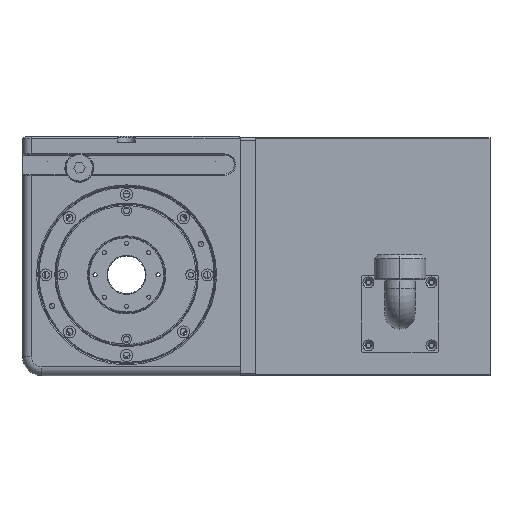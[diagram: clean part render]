
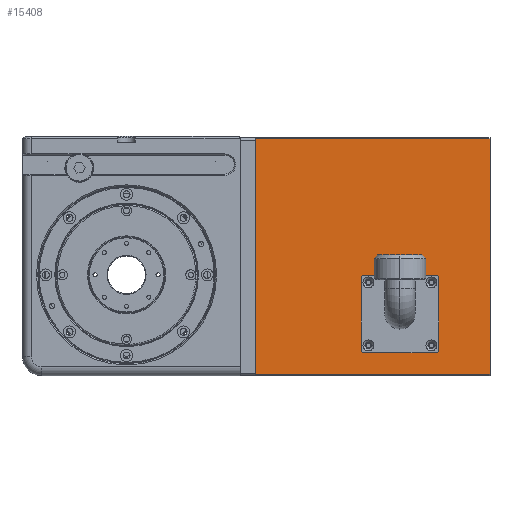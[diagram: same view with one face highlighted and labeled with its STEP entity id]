
A CAD part, front view. The second image highlights one B-rep face of the part: STEP entity #15408.
In plain terms, the highlighted planar face has unit normal (0, -1, 0).
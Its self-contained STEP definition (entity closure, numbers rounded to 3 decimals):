
#708 = EDGE_CURVE ( 'NONE', #8690, #7655, #4653, .T. ) ;
#757 = EDGE_LOOP ( 'NONE', ( #19746, #19303, #3101, #16764 ) ) ;
#802 = CARTESIAN_POINT ( 'NONE',  ( 192., 0., -81.005 ) ) ;
#845 = DIRECTION ( 'NONE',  ( -1., 0., 0. ) ) ;
#949 = VERTEX_POINT ( 'NONE', #19877 ) ;
#989 = DIRECTION ( 'NONE',  ( 0., -1., 0. ) ) ;
#1010 = CARTESIAN_POINT ( 'NONE',  ( 239.975, 0., -81.005 ) ) ;
#1048 = VERTEX_POINT ( 'NONE', #2577 ) ;
#1063 = VECTOR ( 'NONE', #20145, 1000. ) ;
#1245 = AXIS2_PLACEMENT_3D ( 'NONE', #16642, #15104, #11934 ) ;
#1352 = ORIENTED_EDGE ( 'NONE', *, *, #11723, .F. ) ;
#1594 = EDGE_CURVE ( 'NONE', #2111, #949, #5859, .T. ) ;
#1613 = AXIS2_PLACEMENT_3D ( 'NONE', #14639, #3124, #19420 ) ;
#1927 = DIRECTION ( 'NONE',  ( 0., 0., -1. ) ) ;
#1934 = AXIS2_PLACEMENT_3D ( 'NONE', #7332, #16989, #8978 ) ;
#2111 = VERTEX_POINT ( 'NONE', #8515 ) ;
#2280 = EDGE_LOOP ( 'NONE', ( #6208, #16743 ) ) ;
#2454 = DIRECTION ( 'NONE',  ( 0., 1., 0. ) ) ;
#2577 = CARTESIAN_POINT ( 'NONE',  ( 194.025, 0., -81.005 ) ) ;
#2601 = CARTESIAN_POINT ( 'NONE',  ( 192., 0., -81.005 ) ) ;
#2776 = EDGE_CURVE ( 'NONE', #1048, #18453, #18165, .T. ) ;
#2917 = FACE_BOUND ( 'NONE', #4594, .T. ) ;
#3101 = ORIENTED_EDGE ( 'NONE', *, *, #4423, .T. ) ;
#3124 = DIRECTION ( 'NONE',  ( 0., -1., 0. ) ) ;
#4154 = CARTESIAN_POINT ( 'NONE',  ( 102.5, 0., -104.005 ) ) ;
#4262 = LINE ( 'NONE', #18149, #16629 ) ;
#4335 = EDGE_CURVE ( 'NONE', #8490, #949, #12849, .T. ) ;
#4423 = EDGE_CURVE ( 'NONE', #6954, #8490, #4262, .T. ) ;
#4594 = EDGE_LOOP ( 'NONE', ( #1352, #11494 ) ) ;
#4653 = CIRCLE ( 'NONE', #7430, 2.025 ) ;
#4904 = EDGE_LOOP ( 'NONE', ( #18119, #13363 ) ) ;
#5166 = FACE_OUTER_BOUND ( 'NONE', #757, .T. ) ;
#5411 = AXIS2_PLACEMENT_3D ( 'NONE', #8538, #13470, #6885 ) ;
#5859 = LINE ( 'NONE', #7012, #1063 ) ;
#6208 = ORIENTED_EDGE ( 'NONE', *, *, #7320, .F. ) ;
#6465 = CARTESIAN_POINT ( 'NONE',  ( 217., 0., -81.005 ) ) ;
#6570 = CARTESIAN_POINT ( 'NONE',  ( 244.025, 0., -31.005 ) ) ;
#6620 = VERTEX_POINT ( 'NONE', #6570 ) ;
#6885 = DIRECTION ( 'NONE',  ( -1., 0., 0. ) ) ;
#6954 = VERTEX_POINT ( 'NONE', #16585 ) ;
#7012 = CARTESIAN_POINT ( 'NONE',  ( 288.5, 0., -105.005 ) ) ;
#7264 = CARTESIAN_POINT ( 'NONE',  ( 288.5, 0., -105.005 ) ) ;
#7320 = EDGE_CURVE ( 'NONE', #7655, #8690, #17313, .T. ) ;
#7332 = CARTESIAN_POINT ( 'NONE',  ( 242., 0., -31.005 ) ) ;
#7430 = AXIS2_PLACEMENT_3D ( 'NONE', #8629, #14968, #8402 ) ;
#7619 = DIRECTION ( 'NONE',  ( 0., 0., -1. ) ) ;
#7655 = VERTEX_POINT ( 'NONE', #20243 ) ;
#7853 = ORIENTED_EDGE ( 'NONE', *, *, #12305, .F. ) ;
#8054 = DIRECTION ( 'NONE',  ( 0., -1., 0. ) ) ;
#8402 = DIRECTION ( 'NONE',  ( -1., 0., 0. ) ) ;
#8428 = ORIENTED_EDGE ( 'NONE', *, *, #2776, .F. ) ;
#8490 = VERTEX_POINT ( 'NONE', #4154 ) ;
#8493 = DIRECTION ( 'NONE',  ( 0., -1., 0. ) ) ;
#8515 = CARTESIAN_POINT ( 'NONE',  ( 288.5, 0., 82.995 ) ) ;
#8538 = CARTESIAN_POINT ( 'NONE',  ( 242., 0., -81.005 ) ) ;
#8629 = CARTESIAN_POINT ( 'NONE',  ( 192., 0., -31.005 ) ) ;
#8690 = VERTEX_POINT ( 'NONE', #20867 ) ;
#8752 = AXIS2_PLACEMENT_3D ( 'NONE', #7264, #2454, #18524 ) ;
#8978 = DIRECTION ( 'NONE',  ( -1., 0., 0. ) ) ;
#9042 = AXIS2_PLACEMENT_3D ( 'NONE', #9628, #8054, #20687 ) ;
#9408 = CIRCLE ( 'NONE', #5411, 2.025 ) ;
#9445 = CARTESIAN_POINT ( 'NONE',  ( 288.5, 0., -104.005 ) ) ;
#9628 = CARTESIAN_POINT ( 'NONE',  ( 192., 0., -31.005 ) ) ;
#9841 = CARTESIAN_POINT ( 'NONE',  ( 239.975, 0., -31.005 ) ) ;
#10493 = EDGE_CURVE ( 'NONE', #20355, #12230, #9408, .T. ) ;
#10851 = CIRCLE ( 'NONE', #10888, 2.025 ) ;
#10888 = AXIS2_PLACEMENT_3D ( 'NONE', #802, #16964, #12126 ) ;
#11048 = FACE_BOUND ( 'NONE', #15036, .T. ) ;
#11166 = CIRCLE ( 'NONE', #16872, 25. ) ;
#11494 = ORIENTED_EDGE ( 'NONE', *, *, #18821, .F. ) ;
#11534 = VERTEX_POINT ( 'NONE', #6465 ) ;
#11723 = EDGE_CURVE ( 'NONE', #20417, #6620, #15644, .T. ) ;
#11934 = DIRECTION ( 'NONE',  ( -1., 0., 0. ) ) ;
#12053 = CIRCLE ( 'NONE', #1245, 2.025 ) ;
#12121 = VECTOR ( 'NONE', #20779, 1000. ) ;
#12126 = DIRECTION ( 'NONE',  ( -1., 0., 0. ) ) ;
#12211 = AXIS2_PLACEMENT_3D ( 'NONE', #2601, #20197, #845 ) ;
#12230 = VERTEX_POINT ( 'NONE', #1010 ) ;
#12305 = EDGE_CURVE ( 'NONE', #18453, #1048, #10851, .T. ) ;
#12425 = CARTESIAN_POINT ( 'NONE',  ( 288.5, 0., 82.995 ) ) ;
#12432 = CARTESIAN_POINT ( 'NONE',  ( 217., 0., -56.005 ) ) ;
#12632 = DIRECTION ( 'NONE',  ( -1., 0., 0. ) ) ;
#12650 = AXIS2_PLACEMENT_3D ( 'NONE', #12432, #989, #7619 ) ;
#12849 = LINE ( 'NONE', #9445, #12121 ) ;
#12974 = CIRCLE ( 'NONE', #1613, 2.025 ) ;
#13002 = LINE ( 'NONE', #12425, #13747 ) ;
#13363 = ORIENTED_EDGE ( 'NONE', *, *, #20426, .F. ) ;
#13470 = DIRECTION ( 'NONE',  ( 0., -1., 0. ) ) ;
#13576 = DIRECTION ( 'NONE',  ( 0., 0., -1. ) ) ;
#13747 = VECTOR ( 'NONE', #12632, 1000. ) ;
#14173 = CARTESIAN_POINT ( 'NONE',  ( 217., 0., -31.005 ) ) ;
#14298 = FACE_BOUND ( 'NONE', #2280, .T. ) ;
#14639 = CARTESIAN_POINT ( 'NONE',  ( 242., 0., -31.005 ) ) ;
#14797 = CIRCLE ( 'NONE', #12650, 25. ) ;
#14898 = EDGE_CURVE ( 'NONE', #11534, #17822, #14797, .T. ) ;
#14968 = DIRECTION ( 'NONE',  ( 0., -1., 0. ) ) ;
#15036 = EDGE_LOOP ( 'NONE', ( #7853, #8428 ) ) ;
#15104 = DIRECTION ( 'NONE',  ( 0., -1., 0. ) ) ;
#15360 = EDGE_CURVE ( 'NONE', #12230, #20355, #12053, .T. ) ;
#15408 = ADVANCED_FACE ( 'NONE', ( #5166, #19582, #2917, #14298, #11048, #20829 ), #16780, .F. ) ;
#15644 = CIRCLE ( 'NONE', #1934, 2.025 ) ;
#16585 = CARTESIAN_POINT ( 'NONE',  ( 102.5, 0., 82.995 ) ) ;
#16594 = CARTESIAN_POINT ( 'NONE',  ( 217., 0., -56.005 ) ) ;
#16599 = EDGE_CURVE ( 'NONE', #2111, #6954, #13002, .T. ) ;
#16629 = VECTOR ( 'NONE', #13576, 1000. ) ;
#16642 = CARTESIAN_POINT ( 'NONE',  ( 242., 0., -81.005 ) ) ;
#16743 = ORIENTED_EDGE ( 'NONE', *, *, #708, .F. ) ;
#16764 = ORIENTED_EDGE ( 'NONE', *, *, #4335, .T. ) ;
#16780 = PLANE ( 'NONE',  #8752 ) ;
#16872 = AXIS2_PLACEMENT_3D ( 'NONE', #16594, #8493, #1927 ) ;
#16944 = ORIENTED_EDGE ( 'NONE', *, *, #10493, .F. ) ;
#16964 = DIRECTION ( 'NONE',  ( 0., -1., 0. ) ) ;
#16989 = DIRECTION ( 'NONE',  ( 0., -1., 0. ) ) ;
#17313 = CIRCLE ( 'NONE', #9042, 2.025 ) ;
#17420 = ORIENTED_EDGE ( 'NONE', *, *, #15360, .F. ) ;
#17714 = CARTESIAN_POINT ( 'NONE',  ( 244.025, 0., -81.005 ) ) ;
#17822 = VERTEX_POINT ( 'NONE', #14173 ) ;
#18119 = ORIENTED_EDGE ( 'NONE', *, *, #14898, .F. ) ;
#18149 = CARTESIAN_POINT ( 'NONE',  ( 102.5, 0., -105.005 ) ) ;
#18165 = CIRCLE ( 'NONE', #12211, 2.025 ) ;
#18453 = VERTEX_POINT ( 'NONE', #20099 ) ;
#18524 = DIRECTION ( 'NONE',  ( 0., 0., 1. ) ) ;
#18821 = EDGE_CURVE ( 'NONE', #6620, #20417, #12974, .T. ) ;
#19303 = ORIENTED_EDGE ( 'NONE', *, *, #16599, .T. ) ;
#19420 = DIRECTION ( 'NONE',  ( -1., 0., 0. ) ) ;
#19582 = FACE_BOUND ( 'NONE', #4904, .T. ) ;
#19746 = ORIENTED_EDGE ( 'NONE', *, *, #1594, .F. ) ;
#19877 = CARTESIAN_POINT ( 'NONE',  ( 288.5, 0., -104.005 ) ) ;
#20099 = CARTESIAN_POINT ( 'NONE',  ( 189.975, 0., -81.005 ) ) ;
#20110 = EDGE_LOOP ( 'NONE', ( #17420, #16944 ) ) ;
#20145 = DIRECTION ( 'NONE',  ( 0., 0., -1. ) ) ;
#20197 = DIRECTION ( 'NONE',  ( 0., -1., 0. ) ) ;
#20243 = CARTESIAN_POINT ( 'NONE',  ( 189.975, 0., -31.005 ) ) ;
#20355 = VERTEX_POINT ( 'NONE', #17714 ) ;
#20417 = VERTEX_POINT ( 'NONE', #9841 ) ;
#20426 = EDGE_CURVE ( 'NONE', #17822, #11534, #11166, .T. ) ;
#20687 = DIRECTION ( 'NONE',  ( -1., 0., 0. ) ) ;
#20779 = DIRECTION ( 'NONE',  ( 1., 0., 0. ) ) ;
#20829 = FACE_BOUND ( 'NONE', #20110, .T. ) ;
#20867 = CARTESIAN_POINT ( 'NONE',  ( 194.025, 0., -31.005 ) ) ;
